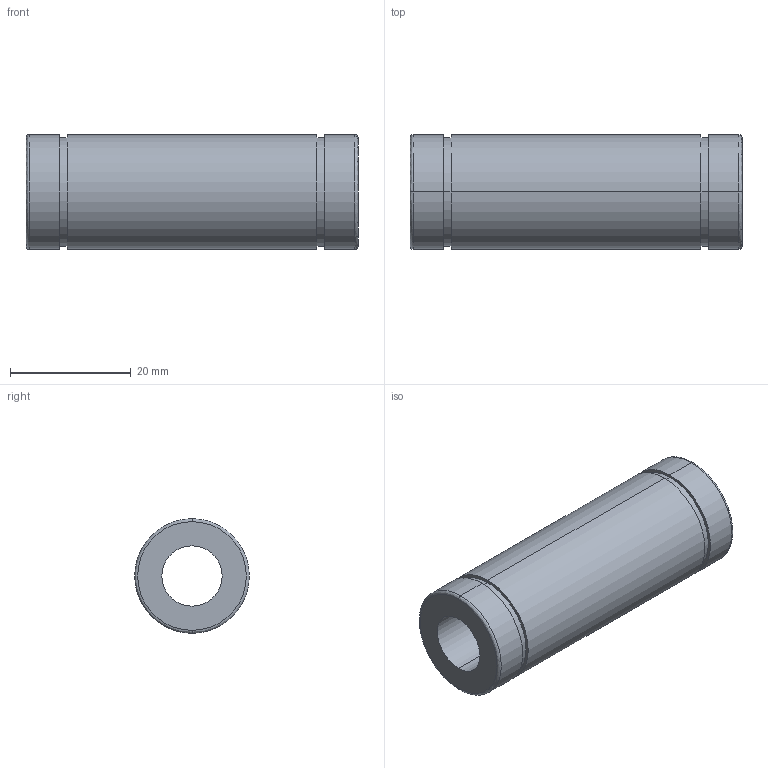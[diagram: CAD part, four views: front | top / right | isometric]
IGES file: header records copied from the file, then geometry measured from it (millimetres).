
Start section: 3D InterOp IGES (Version 21 0 1), Spatial Corp. Copyright (c) 1999-2007.
Global section: file name: NL-10V.igs; native system: Spatial Corp.; preprocessor: 3D InterOp GENERIC/IGES 3.0; author: Noname; organization: Noname; date: 20220311.145726; units: millimetre
Bounding box: 55 x 19 x 19 mm (x, y, z)
Surface area: 5503 mm2 (no closed solid volume)
Topology: 0 solids, 0 shells, 22 faces, 88 edges, 88 vertices
Faces by surface type: revolution 16, extrusion 6
